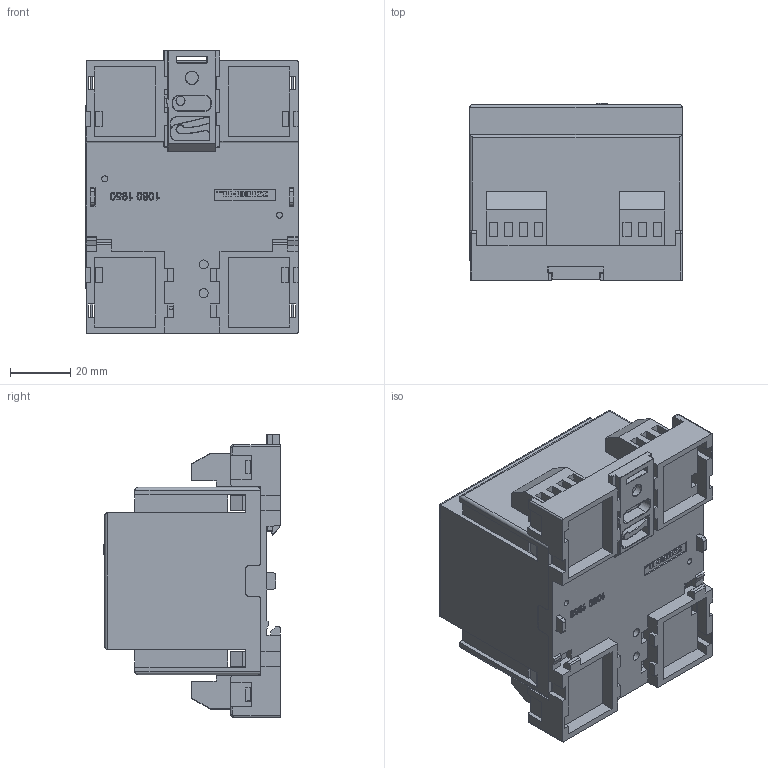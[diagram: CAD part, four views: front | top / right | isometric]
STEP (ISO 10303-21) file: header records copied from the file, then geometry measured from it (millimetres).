
FILE_DESCRIPTION (( 'STEP AP214' ), '1' );
FILE_NAME ('12190-1900-00_3D.STEP', '2014-10-27T12:20:34', ( '' ), ( '' ), 'SwSTEP 2.0', 'SolidWorks 2014', '' );
FILE_SCHEMA (( 'AUTOMOTIVE_DESIGN' ));
Length unit declared in the file: millimetre
Products named in the file (11): 1080 1950.4_3D_V4_UT; 12190-1900-00_3D; 31071103; Potiknopf_3D f黵 Modelle - Kopie; 31071104; 12190-120x_3D; 31071106; V4_Frontplatte; 1080 1960.3_3D_V4_OT; V4_Leiterplatte; 1080 1990.5_V-Riegel_3D
Assembly tree (11 placements, depth 2):
  12190-1900-00_3D
    1080 1950.4_3D_V4_UT
    1080 1990.5_V-Riegel_3D
    V4_Leiterplatte
    1080 1960.3_3D_V4_OT
    V4_Frontplatte
    31071106
    12190-120x_3D
    31071104
    Potiknopf_3D f黵 Modelle - Kopie
    31071103  x2
Bounding box: 70.5 x 58.7 x 93.79 mm (x, y, z)
Volume: 68813.3 mm3; surface area: 80631.3 mm2
Topology: 10 solids, 236 shells, 3800 faces, 9523 edges, 6264 vertices
Faces by surface type: plane 2946, bspline 592, cylinder 204, torus 40, sphere 18
Full cylindrical faces by diameter (mm): 1.5 x4, 1.8 x4, 2 x2, 2.8 x1, 3 x4, 3.5 x5, 3.658 x2, 4 x17, 4.2 x1, 4.5 x2, 6 x2
Entity records: 134115 total; most frequent: CARTESIAN_POINT 44507, ORIENTED_EDGE 18597, DIRECTION 14816, EDGE_CURVE 9299, VECTOR 7628, LINE 7628, VERTEX_POINT 6151, EDGE_LOOP 4045
